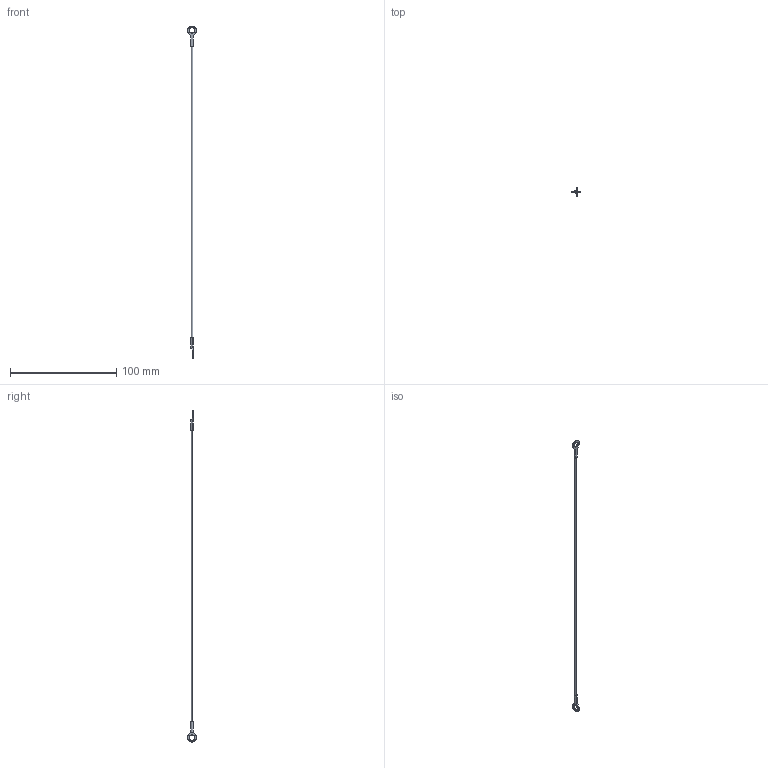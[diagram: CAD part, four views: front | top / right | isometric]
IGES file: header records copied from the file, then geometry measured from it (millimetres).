
Start section: SolidWorks IGES file using analytic representation for surfaces
Global section: file name: C:\Users\ianosborn\Desktop\LA1070_v2\LA1070_v2_20260323_IGES\LA1070.I04-304C1.igs; native system: SolidWorks 2019; preprocessor: SolidWorks 2019; author: IanOsborn; date: 260323.144824; units: millimetre
Bounding box: 8.38 x 8.38 x 313.18 mm (x, y, z)
Surface area: 1792.3 mm2 (no closed solid volume)
Topology: 0 solids, 0 shells, 27 faces, 460 edges, 460 vertices
Faces by surface type: bspline 16, revolution 11
